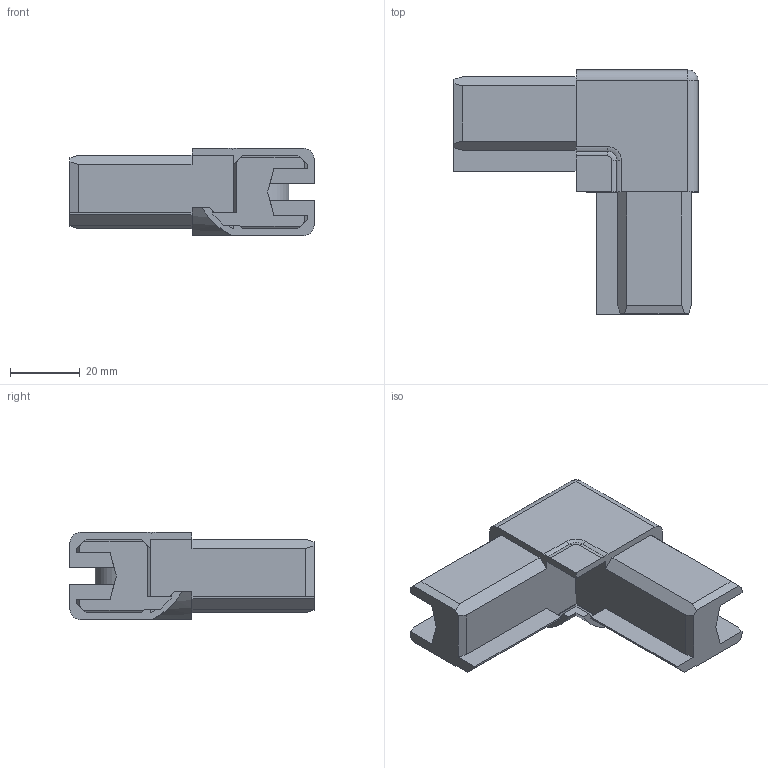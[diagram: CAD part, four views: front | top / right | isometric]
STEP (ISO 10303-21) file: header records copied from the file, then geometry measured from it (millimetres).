
FILE_DESCRIPTION (( 'STEP AP214' ), '1' );
FILE_NAME ('N15839.step', '2024-12-03T16:25:53', ( '' ), ( '' ), 'SwSTEP 2.0', 'SolidWorks 2023', '' );
FILE_SCHEMA (( 'AUTOMOTIVE_DESIGN' ));
Length unit declared in the file: millimetre
Products named in the file (1): N15839
Bounding box: 70 x 70 x 25 mm (x, y, z)
Volume: 42684.4 mm3; surface area: 14966.1 mm2
Topology: 1 solids, 1 shells, 117 faces, 323 edges, 202 vertices
Faces by surface type: plane 80, cylinder 27, torus 8, sphere 2
Entity records: 3681 total; most frequent: CARTESIAN_POINT 653, ORIENTED_EDGE 642, DIRECTION 616, EDGE_CURVE 321, VECTOR 254, LINE 254, VERTEX_POINT 202, AXIS2_PLACEMENT_3D 181
